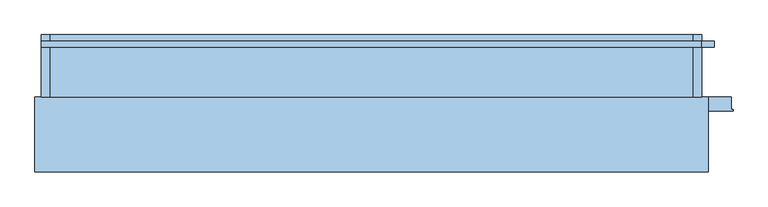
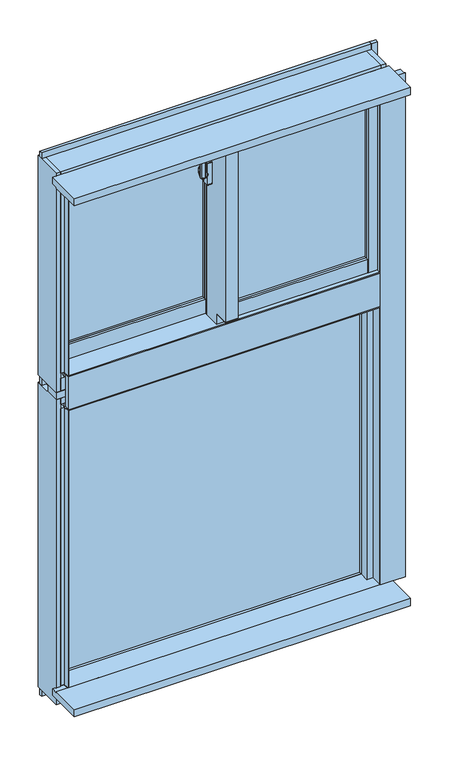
"""IFC4 building model written with IfcOpenShell, lengths in millimetres: window geometry, FNSⅡ100R_非防火_面付枠_段窓_分解無目 : 引違/FIX."""

import ifcopenshell
import ifcopenshell.guid

model = None  # the IFC model being written
_history = None  # IfcOwnerHistory: only IFC2X3 demands one
_inside = {}  # id of a spatial element -> (the spatial element, [elements in it])
_under = {}  # id of a project, library or spatial element -> (it, [spatial elements below it])
_declared = {}  # id of a project -> (the project, [libraries it declares])
_typed = {}  # id of a type object -> (the type object, [elements of that type])
_made_of = {}  # id of a material, layer set ... -> (it, [elements and type objects made of it])


def new_model(schema):
    """Start an empty IFC model of exactly this schema.

    Asked for "IFC4X3", IfcOpenShell would pick the latest addendum, in which some entities
    have other attributes; the version numbers below select the first issue.
    IFC2X3 requires an IfcOwnerHistory on every rooted entity: one is made here for all.
    """
    global model, _history
    if schema == "IFC4X3":
        model = ifcopenshell.file(schema_version=(4, 3, 0, 0))
    else:
        model = ifcopenshell.file(schema=schema)
    _inside.clear()
    _under.clear()
    _declared.clear()
    _typed.clear()
    _made_of.clear()
    _history = None
    if model.schema == "IFC2X3":
        org = make("IfcOrganization", Name="unknown")
        user = make(
            "IfcPersonAndOrganization",
            ThePerson=make("IfcPerson", FamilyName="unknown"),
            TheOrganization=org,
        )
        app = make(
            "IfcApplication",
            ApplicationDeveloper=org,
            Version="unknown",
            ApplicationFullName="unknown",
            ApplicationIdentifier="unknown",
        )
        _history = make(
            "IfcOwnerHistory",
            OwningUser=user,
            OwningApplication=app,
            ChangeAction="ADDED",
            CreationDate=0,
        )
    return model


def make(cls, **values):
    """One entity of the class cls with the attributes given. An attribute that is None is left unset."""
    return model.create_entity(
        cls, **{name: value for name, value in values.items() if value is not None}
    )


def rooted(cls, **values):
    """An entity with a GlobalId (a new one), such as an element, a storey or a relation."""
    return make(cls, GlobalId=ifcopenshell.guid.new(), OwnerHistory=_history, **values)


def si_unit(unit_type, name, prefix=None):
    """IfcSIUnit, for example si_unit("LENGTHUNIT", "METRE", prefix="MILLI")."""
    return make("IfcSIUnit", UnitType=unit_type, Prefix=prefix, Name=name)


def assignment(units):
    """IfcUnitAssignment: the units of a project."""
    return None if units is None else make("IfcUnitAssignment", Units=units)


def point(xyz):
    """IfcCartesianPoint."""
    return None if xyz is None else make("IfcCartesianPoint", Coordinates=xyz)


def direction(xyz):
    """IfcDirection."""
    return None if xyz is None else make("IfcDirection", DirectionRatios=xyz)


def frame(location, z_axis=None, x_axis=None):
    """IfcAxis2Placement3D, a coordinate frame: its origin and axes. An axis left out is left unset."""
    return make(
        "IfcAxis2Placement3D",
        Location=point(location),
        Axis=direction(z_axis),
        RefDirection=direction(x_axis),
    )


def frame_2d(location, x_axis=None):
    """IfcAxis2Placement2D, a coordinate frame in the plane: its origin and x axis."""
    return make(
        "IfcAxis2Placement2D", Location=point(location), RefDirection=direction(x_axis)
    )


def origin():
    """The frame at (0, 0, 0) with its axes left unset."""
    return frame((0.0, 0.0, 0.0))


def place(relative_to, where):
    """IfcLocalPlacement: puts the frame where relative to a parent placement (None: the world)."""
    return make(
        "IfcLocalPlacement", PlacementRelTo=relative_to, RelativePlacement=where
    )


def context(
    kind, dimensions, precision=None, world=None, true_north=None, identifier=None
):
    """IfcGeometricRepresentationContext, for example the 3D "Model" context."""
    return make(
        "IfcGeometricRepresentationContext",
        ContextIdentifier=identifier,
        ContextType=kind,
        CoordinateSpaceDimension=dimensions,
        Precision=precision,
        WorldCoordinateSystem=world,
        TrueNorth=true_north,
    )


def project(units=None, contexts=None):
    """IfcProject with its units and contexts."""
    return rooted(
        "IfcProject",
        Name="project",
        RepresentationContexts=contexts,
        UnitsInContext=assignment(units),
    )


def spatial(cls, under=None, at=None, **own):
    """A site, building, storey or space (cls), placed at a placement, below another one or the project."""
    s = rooted(cls, ObjectPlacement=at, **own)
    if under is not None:
        _under.setdefault(under.id(), (under, []))[1].append(s)
    return s


def polyline(points):
    """IfcPolyline through the points."""
    return make("IfcPolyline", Points=[point(p) for p in points])


def circle_curve(where, radius):
    """IfcCircle in the frame where."""
    return make("IfcCircle", Position=where, Radius=radius)


def trimmed(basis, trim1, trim2, sense, master):
    """IfcTrimmedCurve: the piece of a basis curve between two trims."""
    return make(
        "IfcTrimmedCurve",
        BasisCurve=basis,
        Trim1=trim1,
        Trim2=trim2,
        SenseAgreement=sense,
        MasterRepresentation=master,
    )


def segment(curve, same_sense, transition):
    """IfcCompositeCurveSegment."""
    return make(
        "IfcCompositeCurveSegment",
        Transition=transition,
        SameSense=same_sense,
        ParentCurve=curve,
    )


def composite_curve(segments, self_intersect=None):
    """IfcCompositeCurve: segments joined end to end."""
    return make("IfcCompositeCurve", Segments=segments, SelfIntersect=self_intersect)


def outline(outer, holes=None, kind="AREA"):
    """IfcArbitraryClosedProfileDef: a profile drawn as a closed curve; with holes, ...WithVoids."""
    if holes is None:
        return make("IfcArbitraryClosedProfileDef", ProfileType=kind, OuterCurve=outer)
    return make(
        "IfcArbitraryProfileDefWithVoids",
        ProfileType=kind,
        OuterCurve=outer,
        InnerCurves=holes,
    )


def extrude(swept, where, along, depth):
    """IfcExtrudedAreaSolid: the profile swept, set in the frame where, extruded along a direction by depth."""
    return make(
        "IfcExtrudedAreaSolid",
        SweptArea=swept,
        Position=where,
        ExtrudedDirection=direction(along),
        Depth=depth,
    )


def faces_of(points, faces, orient=None, outer=None):
    """IfcFace entities. A face is a list of loops; a loop is a list of indices into points, from 0.

    orient and outer hold one flag for each loop. By default every Orientation is true, the
    first loop of a face is its IfcFaceOuterBound and the others are IfcFaceBound.
    """
    made = []
    for i, loops in enumerate(faces):
        bounds = []
        for j, loop in enumerate(loops):
            is_outer = j == 0 if outer is None else outer[i][j]
            bounds.append(
                make(
                    "IfcFaceOuterBound" if is_outer else "IfcFaceBound",
                    Bound=make("IfcPolyLoop", Polygon=[points[k] for k in loop]),
                    Orientation=True if orient is None else orient[i][j],
                )
            )
        made.append(make("IfcFace", Bounds=bounds))
    return made


def faceted_brep(points, faces, orient=None, outer=None, voids=None):
    """IfcFacetedBrep: a solid bounded by flat faces; with voids (closed shells), ...WithVoids."""
    shared = [point(p) for p in points]
    hull = make("IfcClosedShell", CfsFaces=faces_of(shared, faces, orient, outer))
    if voids is None:
        return make("IfcFacetedBrep", Outer=hull)
    return make(
        "IfcFacetedBrepWithVoids",
        Outer=hull,
        Voids=[
            make(cls, CfsFaces=faces_of(shared, fs, o, b)) for cls, fs, o, b in voids
        ],
    )


def shape(context_of_items, identifier, shape_type, items):
    """IfcShapeRepresentation: the items that make up one representation, for example the "Body"."""
    return make(
        "IfcShapeRepresentation",
        ContextOfItems=context_of_items,
        RepresentationIdentifier=identifier,
        RepresentationType=shape_type,
        Items=items,
    )


def source(mapping_origin, context_of_items, identifier, shape_type, items):
    """IfcRepresentationMap: a shape defined once, which mapped items show again and again."""
    return make(
        "IfcRepresentationMap",
        MappingOrigin=mapping_origin,
        MappedRepresentation=shape(context_of_items, identifier, shape_type, items),
    )


def transform(
    local_origin,
    x_axis=None,
    y_axis=None,
    z_axis=None,
    scale=None,
    scale2=None,
    scale3=None,
    uniform=True,
):
    """IfcCartesianTransformationOperator3D, or its non-uniform kind. x_axis, y_axis, z_axis: its Axis1, 2, 3."""
    if uniform:
        return make(
            "IfcCartesianTransformationOperator3D",
            Axis1=direction(x_axis),
            Axis2=direction(y_axis),
            LocalOrigin=point(local_origin),
            Scale=scale,
            Axis3=direction(z_axis),
        )
    return make(
        "IfcCartesianTransformationOperator3DnonUniform",
        Axis1=direction(x_axis),
        Axis2=direction(y_axis),
        LocalOrigin=point(local_origin),
        Scale=scale,
        Axis3=direction(z_axis),
        Scale2=scale2,
        Scale3=scale3,
    )


def mapped(mapping_source, mapping_target):
    """IfcMappedItem: shows the shape of a source again, moved by a transform."""
    return make(
        "IfcMappedItem", MappingSource=mapping_source, MappingTarget=mapping_target
    )


def made_of(thing, what):
    """Note that an element or type object is made of a material, layer set ...; save() writes the relation."""
    if what is not None:
        _made_of.setdefault(what.id(), (what, []))[1].append(thing)
    return thing


def element(
    cls,
    number,
    at=None,
    inside=None,
    cuts=None,
    type_object=None,
    material=None,
    context=None,
    identifier="Body",
    shape_type=None,
    held_by="IfcProductDefinitionShape",
    body=None,
    shapes=None,
    **own,
):
    """One element of the class cls, such as IfcWall. Its Tag is "e" and its number.

    at: its placement. inside: the storey or other place that contains it. cuts: it is an
    opening in that element (IfcRelVoidsElement). A single representation is given by context,
    identifier, shape_type and body (its items); several are given by shapes. held_by: the class
    of the entity that holds the representations. save() writes the other relations.
    """
    e = rooted(cls, Tag="e%d" % number, ObjectPlacement=at, **own)
    if body is not None:
        shapes = [shape(context, identifier, shape_type, body)]
    if shapes is not None:
        e.Representation = make(held_by, Representations=shapes)
    if inside is not None:
        _inside.setdefault(inside.id(), (inside, []))[1].append(e)
    if cuts is not None:
        rooted(
            "IfcRelVoidsElement", RelatingBuildingElement=cuts, RelatedOpeningElement=e
        )
    if type_object is not None:
        _typed.setdefault(type_object.id(), (type_object, []))[1].append(e)
    return made_of(e, material)


def aggregate(whole, parts):
    """IfcRelAggregates: a whole, such as a stair, and the parts it consists of."""
    return rooted("IfcRelAggregates", RelatingObject=whole, RelatedObjects=parts)


def save(model, path):
    """Write the relations noted so far, then the file.

    IfcRelAggregates (storeys below a building ...), IfcRelContainedInSpatialStructure (elements
    in a storey), IfcRelDefinesByType, IfcRelAssociatesMaterial and IfcRelDeclares: one each for
    every whole, place, type object, material and project.
    """
    for whole, parts in _under.values():
        aggregate(whole, parts)
    for where, things in _inside.values():
        rooted(
            "IfcRelContainedInSpatialStructure",
            RelatedElements=things,
            RelatingStructure=where,
        )
    for kind, things in _typed.values():
        rooted("IfcRelDefinesByType", RelatedObjects=things, RelatingType=kind)
    for what, things in _made_of.values():
        rooted("IfcRelAssociatesMaterial", RelatedObjects=things, RelatingMaterial=what)
    for by, libraries in _declared.values():
        rooted("IfcRelDeclares", RelatingContext=by, RelatedDefinitions=libraries)
    model.write(path)


def plane_surface(at):
    """IfcPlane: the flat surface through the origin of the frame at, square to its z axis."""
    return make("IfcPlane", Position=at)


def cylinder_surface(at, radius):
    """IfcCylindricalSurface: all points at the distance radius from the z axis of the frame at."""
    return make("IfcCylindricalSurface", Position=at, Radius=radius)


def revolved_surface(curve, axis_point, axis_direction):
    """IfcSurfaceOfRevolution: the curve turned about the line through axis_point along axis_direction."""
    return make(
        "IfcSurfaceOfRevolution",
        SweptCurve=make("IfcArbitraryOpenProfileDef", ProfileType="CURVE", Curve=curve),
        AxisPosition=make("IfcAxis1Placement", Location=point(axis_point), Axis=direction(axis_direction)),
    )


def advanced_brep(points, edges, surfaces, faces):
    """IfcAdvancedBrep: a solid bounded by faces that lie on surfaces and meet in shared edges.

    An edge is (start, end): straight between two places in points (the first is 0);
    or (start, end, curve); or (start, end, curve, False) where it runs against its curve.
    A face is (place in surfaces, loops), or (place, loops, False) where it looks against
    its surface's normal. A loop lists edges by number (the first is 1), with a minus sign
    where the edge is run from its end to its start. The first loop is the outer one.
    """
    corners = [point(p) for p in points]
    vertices = [make("IfcVertexPoint", VertexGeometry=c) for c in corners]
    made = []
    for start, end, *more in edges:
        made.append(
            make(
                "IfcEdgeCurve",
                EdgeStart=vertices[start],
                EdgeEnd=vertices[end],
                EdgeGeometry=more[0] if more else make("IfcPolyline", Points=[corners[start], corners[end]]),
                SameSense=more[1] if len(more) > 1 else True,
            )
        )
    hull = []
    for where, loops, *sense in faces:
        bounds = []
        for j, loop in enumerate(loops):
            ring = [make("IfcOrientedEdge", EdgeElement=made[abs(k) - 1], Orientation=k > 0) for k in loop]
            bounds.append(
                make(
                    "IfcFaceOuterBound" if j == 0 else "IfcFaceBound",
                    Bound=make("IfcEdgeLoop", EdgeList=ring),
                    Orientation=True,
                )
            )
        hull.append(make("IfcAdvancedFace", Bounds=bounds, FaceSurface=surfaces[where], SameSense=sense[0] if sense else True))
    return make("IfcAdvancedBrep", Outer=make("IfcClosedShell", CfsFaces=hull))


def window_9f8f197e(model_context):
    return source(origin(), model_context, "Body", "SolidModel", [
        extrude(outline(composite_curve([segment(polyline([(-39.0, 34.6), (-39.0, 26.4)]), True, "CONTINUOUS"), segment(trimmed(circle_curve(frame_2d((-41.0, 26.4)), 2.0), [point((-39.0, 26.4))], [point((-41.3606557, 24.4327869))], False, "CARTESIAN"), True, "CONTINUOUS"), segment(polyline([(-41.3606557, 24.4327869), (-52.3606557, 26.4494536)]), True, "CONTINUOUS"), segment(trimmed(circle_curve(frame_2d((-52.0, 28.4166667)), 2.0), [point((-52.3606557, 26.4494536))], [point((-54.0, 28.4166667))], False, "CARTESIAN"), True, "CONTINUOUS"), segment(polyline([(-54.0, 28.4166667), (-54.0, 32.5833333)]), True, "CONTINUOUS"), segment(trimmed(circle_curve(frame_2d((-52.0, 32.5833333)), 2.0), [point((-54.0, 32.5833333))], [point((-52.3606557, 34.5505464))], False, "CARTESIAN"), True, "CONTINUOUS"), segment(polyline([(-52.3606557, 34.5505464), (-41.3606557, 36.5672131)]), True, "CONTINUOUS"), segment(trimmed(circle_curve(frame_2d((-41.0, 34.6)), 2.0), [point((-41.3606557, 36.5672131))], [point((-39.0, 34.6))], False, "CARTESIAN"), True, "CONTINUOUS")], self_intersect=False)), frame((0.0, 0.0, 2450.0), z_axis=(0.0, 0.0, 1.0), x_axis=(1.0, 0.0, 0.0)), (0.0, 0.0, 1.0), 100.0),
        advanced_brep(
        [(-37.5, 38.8234285, 2481.7333311), (-45.5, 38.8234285, 2481.7333311), (-45.5, 38.4351999, 2480.2844424), (-39.0, 38.4351999, 2480.2844424), (-39.0, 36.6234666, 2473.5229616), (-37.5, 36.6234666, 2473.5229616), (-39.0, 36.6466117, 2439.3190372), (-45.5, 36.6466117, 2439.3190372), (-45.5, 36.907084, 2437.8418256), (-37.5, 36.907084, 2437.8418256), (-37.5, 35.4310745, 2446.2126915), (-39.0, 35.4310745, 2446.2126915)],
        [
            (0, 1),
            (1, 2),
            (2, 3),
            (3, 4),
            (4, 5),
            (5, 0),
            (6, 7),
            (7, 8),
            (8, 9),
            (9, 10),
            (10, 11),
            (11, 6),
            (0, 9, circle_curve(frame((-37.5, 33.0, 2460.0), z_axis=(-1.0, 0.0, 0.0), x_axis=(0.0, 0.25881904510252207, 0.965925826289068)), 22.5)),
            (8, 1, circle_curve(frame((-45.5, 33.0, 2460.0), z_axis=(1.0, 0.0, 0.0), x_axis=(0.0, 0.25881904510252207, 0.965925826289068)), 22.5)),
            (7, 2, circle_curve(frame((-45.5, 33.0, 2460.0), z_axis=(1.0, 0.0, 0.0), x_axis=(0.0, 0.25881904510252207, 0.965925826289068)), 21.0)),
            (6, 3, circle_curve(frame((-39.0, 33.0, 2460.0), z_axis=(1.0, 0.0, 0.0), x_axis=(0.0, 0.25881904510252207, 0.965925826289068)), 21.0)),
            (11, 4, circle_curve(frame((-39.0, 33.0, 2460.0), z_axis=(-1.0, 0.0, 0.0), x_axis=(0.0, -1.0, 0.0)), 14.0)),
            (5, 10, circle_curve(frame((-37.5, 33.0, 2460.0), z_axis=(1.0, 0.0, 0.0), x_axis=(0.0, -1.0, 0.0)), 14.0)),
        ],
        [
            plane_surface(frame((-43.5470497, 33.0, 2460.0), z_axis=(0.0, -0.965925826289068, 0.25881904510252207), x_axis=(0.0, 0.25881904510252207, 0.965925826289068))),
            plane_surface(frame((-43.5470497, 33.0, 2460.0), z_axis=(0.0, -0.9848077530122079, -0.17364817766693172), x_axis=(0.0, 0.17364817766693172, -0.9848077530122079))),
            cylinder_surface(frame((-43.5470497, 33.0, 2460.0), z_axis=(-1.0, 0.0, 0.0), x_axis=(0.0, 0.25881904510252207, 0.965925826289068)), 22.5),
            plane_surface(frame((-45.5, 33.0, 2460.0), z_axis=(-1.0, 0.0, 0.0), x_axis=(0.0, 0.25881904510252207, 0.965925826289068))),
            revolved_surface(polyline([(-45.5, 38.43519994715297, 2480.2844423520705), (-39.0, 38.43519994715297, 2480.2844423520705)]), (-43.5470497, 33.0, 2460.0), (-1.0, 0.0, 0.0)),
            plane_surface(frame((-39.0, 33.0, 2460.0), z_axis=(-1.0, 0.0, 0.0), x_axis=(0.0, 0.25881904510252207, 0.965925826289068))),
            plane_surface(frame((-37.5, 33.0, 2460.0), z_axis=(1.0, 0.0, 0.0), x_axis=(0.0, 0.25881904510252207, 0.965925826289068))),
            cylinder_surface(frame((-37.5, 33.0, 2460.0), z_axis=(-1.0, 0.0, 0.0), x_axis=(0.0, -1.0, 0.0)), 14.0),
        ],
        [
            (0, [[1, 2, 3, 4, 5, 6]]),
            (1, [[7, 8, 9, 10, 11, 12]]),
            (2, [[-1, 13, -9, 14]]),
            (3, [[-2, -14, -8, 15]]),
            (4, [[-3, -15, -7, 16]]),
            (5, [[-16, -12, 17, -4]]),
            (6, [[-13, -6, 18, -10]]),
            (7, [[-17, -11, -18, -5]]),
        ],
    ),
        extrude(outline(composite_curve([segment(trimmed(circle_curve(frame_2d((33.0, 2460.0)), 11.5), [point((44.5, 2460.0))], [point((21.5, 2460.0))], False, "CARTESIAN"), True, "CONTINUOUS"), segment(trimmed(circle_curve(frame_2d((33.0, 2460.0)), 11.5), [point((21.5, 2460.0))], [point((44.5, 2460.0))], False, "CARTESIAN"), True, "CONTINUOUS")], self_intersect=False)), frame((-37.5, 0.0, 0.0), z_axis=(1.0, 0.0, 0.0), x_axis=(0.0, 1.0, 0.0)), (0.0, 0.0, 1.0), 2.5),
        extrude(outline(composite_curve([segment(polyline([(24.0, 2497.5), (42.0, 2497.5)]), True, "CONTINUOUS"), segment(trimmed(circle_curve(frame_2d((42.0, 2495.5)), 2.0), [point((42.0, 2497.5))], [point((44.0, 2495.5))], False, "CARTESIAN"), True, "CONTINUOUS"), segment(polyline([(44.0, 2495.5), (44.0, 2424.5)]), True, "CONTINUOUS"), segment(trimmed(circle_curve(frame_2d((42.0, 2424.5)), 2.0), [point((44.0, 2424.5))], [point((42.0, 2422.5))], False, "CARTESIAN"), True, "CONTINUOUS"), segment(polyline([(42.0, 2422.5), (24.0, 2422.5)]), True, "CONTINUOUS"), segment(trimmed(circle_curve(frame_2d((24.0, 2424.5)), 2.0), [point((24.0, 2422.5))], [point((22.0, 2424.5))], False, "CARTESIAN"), True, "CONTINUOUS"), segment(polyline([(22.0, 2424.5), (22.0, 2495.5)]), True, "CONTINUOUS"), segment(trimmed(circle_curve(frame_2d((24.0, 2495.5)), 2.0), [point((22.0, 2495.5))], [point((24.0, 2497.5))], False, "CARTESIAN"), True, "CONTINUOUS")], self_intersect=False)), frame((-35.0, 0.0, 0.0), z_axis=(1.0, 0.0, 0.0), x_axis=(0.0, 1.0, 0.0)), (0.0, 0.0, 1.0), 15.0),
        extrude(outline(polyline([(20.0, 24.0), (468.0, 24.0), (468.0, 18.0), (20.0, 18.0), (20.0, 24.0)])), frame((0.0, 0.0, 2008.0), z_axis=(0.0, 0.0, 1.0), x_axis=(1.0, 0.0, 0.0)), (0.0, 0.0, 1.0), 562.0),
        extrude(outline(polyline([(20.0, 42.0), (468.0, 42.0), (468.0, 36.0), (20.0, 36.0), (20.0, 42.0)])), frame((0.0, 0.0, 2008.0), z_axis=(0.0, 0.0, 1.0), x_axis=(1.0, 0.0, 0.0)), (0.0, 0.0, 1.0), 562.0),
        extrude(outline(polyline([(-468.0, 82.0), (-20.0, 82.0), (-20.0, 76.0), (-468.0, 76.0), (-468.0, 82.0)])), frame((0.0, 0.0, 2008.0), z_axis=(0.0, 0.0, 1.0), x_axis=(1.0, 0.0, 0.0)), (0.0, 0.0, 1.0), 562.0),
        extrude(outline(polyline([(-468.0, 100.0), (-20.0, 100.0), (-20.0, 94.0), (-468.0, 94.0), (-468.0, 100.0)])), frame((0.0, 0.0, 2008.0), z_axis=(0.0, 0.0, 1.0), x_axis=(1.0, 0.0, 0.0)), (0.0, 0.0, 1.0), 562.0),
        faceted_brep([(-500.0, 108.0, 2610.0), (-468.0, 108.0, 2610.0), (-468.0, 108.0, 1920.0), (-500.0, 108.0, 1920.0), (-500.0, 79.0, 1920.0), (-500.0, 79.0, 2610.0), (-489.5, 79.0, 1960.0), (-468.0, 79.0, 1960.0), (-468.0, 66.0, 1960.0), (-489.5, 66.0, 1960.0), (-489.5, 79.0, 2610.0), (-489.5, 66.0, 2610.0), (-468.0, 66.0, 2610.0), (-468.0, 79.0, 1920.0)], [[[0, 1, 2, 3]], [[4, 5, 0, 3]], [[6, 7, 8, 9]], [[5, 10, 11, 12, 1, 0]], [[13, 4, 3, 2]], [[10, 5, 4, 13, 7, 6]], [[11, 10, 6, 9]], [[12, 11, 9, 8]], [[1, 12, 8, 7, 13, 2]]]),
        faceted_brep([(-20.0, 108.0, 1920.0), (20.0, 108.0, 1920.0), (20.0, 79.0, 1920.0), (-20.0, 79.0, 1920.0), (-1.8, 65.5, 2610.0), (-20.0, 65.5, 2610.0), (-20.0, 65.5, 1960.0), (-1.8, 65.5, 1960.0), (-1.8, 53.1, 2610.0), (-1.8, 53.1, 1960.0), (20.0, 53.1, 2610.0), (20.0, 53.1, 1960.0), (-20.0, 108.0, 2610.0), (20.0, 108.0, 2610.0), (-20.0, 79.0, 1960.0), (20.0, 79.0, 1960.0)], [[[0, 1, 2, 3]], [[4, 5, 6, 7]], [[8, 4, 7, 9]], [[10, 8, 9, 11]], [[12, 13, 1, 0]], [[14, 15, 11, 9, 7, 6]], [[5, 4, 8, 10, 13, 12]], [[13, 10, 11, 15, 2, 1]], [[5, 12, 0, 3, 14, 6]], [[15, 14, 3, 2]]]),
        faceted_brep([(-20.0, 53.1, 1960.0), (-15.0, 53.1, 1960.0), (-15.0, 0.0, 1960.0), (-20.0, 0.0, 1960.0), (15.0, 12.0, 1960.0), (20.0, 12.0, 1960.0), (20.0, 0.0, 1960.0), (15.0, 0.0, 1960.0), (-15.0, 53.1, 2610.0), (-15.0, 0.0, 2610.0), (-15.0, 0.0, 2581.0), (-15.0, -42.0, 2581.0), (-15.0, -42.0, 1996.5), (-15.0, 0.0, 1996.5), (-20.0, 53.1, 2610.0), (-20.0, 0.0, 2610.0), (20.0, 12.0, 2610.0), (15.0, 12.0, 2610.0), (15.0, 0.0, 2610.0), (20.0, 0.0, 2610.0), (-20.0, 0.0, 1996.5), (-20.0, -50.0, 1996.5), (-20.0, -50.0, 2581.0), (-20.0, 0.0, 2581.0), (20.0, -50.0, 1996.5), (20.0, -50.0, 2581.0), (20.0, 0.0, 2581.0), (20.0, 0.0, 1996.5), (15.0, -42.0, 2581.0), (15.0, -42.0, 1996.5), (15.0, 0.0, 1996.5), (15.0, 0.0, 2581.0)], [[[0, 1, 2, 3]], [[4, 5, 6, 7]], [[1, 8, 9, 10, 11, 12, 13, 2]], [[14, 8, 1, 0]], [[8, 14, 15, 9]], [[16, 17, 18, 19]], [[14, 0, 3, 20, 21, 22, 23, 15]], [[22, 21, 24, 25]], [[5, 16, 19, 26, 25, 24, 27, 6]], [[28, 29, 12, 11]], [[17, 16, 5, 4]], [[17, 4, 7, 30, 29, 28, 31, 18]], [[13, 20, 3, 2]], [[27, 30, 7, 6]], [[20, 13, 12, 29, 30, 27, 24, 21]], [[10, 23, 22, 25, 26, 31, 28, 11]], [[23, 10, 9, 15]], [[31, 26, 19, 18]]]),
        faceted_brep([(-15.0, 53.1, 1960.0), (20.0, 53.1, 1960.0), (20.0, 12.0, 1960.0), (15.0, 12.0, 1960.0), (15.0, 0.0, 1960.0), (-15.0, 0.0, 1960.0), (-15.0, 53.1, 2610.0), (-15.0, 0.0, 1996.5), (-15.0, -42.0, 1996.5), (-15.0, -42.0, 2581.0), (-15.0, 0.0, 2581.0), (-15.0, 0.0, 2610.0), (20.0, 53.1, 2610.0), (15.0, 0.0, 2581.0), (15.0, -42.0, 2581.0), (20.0, 12.0, 2610.0), (15.0, 12.0, 2610.0), (15.0, 0.0, 2610.0), (15.0, -42.0, 1996.5), (15.0, 0.0, 1996.5)], [[[0, 1, 2, 3, 4, 5]], [[6, 0, 5, 7, 8, 9, 10, 11]], [[6, 12, 1, 0]], [[13, 10, 9, 14]], [[15, 16, 3, 2]], [[16, 15, 12, 6, 11, 17]], [[9, 8, 18, 14]], [[12, 15, 2, 1]], [[19, 7, 5, 4]], [[7, 19, 18, 8]], [[10, 13, 17, 11]], [[3, 16, 17, 13, 14, 18, 19, 4]]]),
        extrude(outline(polyline([(468.0, 0.0), (468.0, 8.0), (489.5, 8.0), (489.5, 21.0), (497.0, 21.0), (497.0, 0.0), (468.0, 0.0)])), frame((0.0, 0.0, 1963.0), z_axis=(0.0, 0.0, 1.0), x_axis=(1.0, 0.0, 0.0)), (0.0, 0.0, 1.0), 647.0),
        extrude(outline(polyline([(468.0, 50.0), (500.0, 50.0), (500.0, 21.0), (489.5, 21.0), (489.5, 8.0), (468.0, 8.0), (468.0, 50.0)])), frame((0.0, 0.0, 1960.0), z_axis=(0.0, 0.0, 1.0), x_axis=(1.0, 0.0, 0.0)), (0.0, 0.0, 1.0), 650.0),
        extrude(outline(polyline([(-1.85, 65.5), (-1.85, 58.0), (-20.0, 58.0), (-20.0, 65.5), (-1.85, 65.5)])), frame((0.0, 0.0, 1960.0), z_axis=(0.0, 0.0, 1.0), x_axis=(1.0, 0.0, 0.0)), (0.0, 0.0, 1.0), 650.0),
        extrude(outline(polyline([(-497.0, 79.0), (-489.5, 79.0), (-489.5, 66.0), (-468.0, 66.0), (-468.0, 58.0), (-497.0, 58.0), (-497.0, 79.0)])), frame((0.0, 0.0, 1960.0), z_axis=(0.0, 0.0, 1.0), x_axis=(1.0, 0.0, 0.0)), (0.0, 0.0, 1.0), 650.0),
        extrude(outline(polyline([(2.0, 1963.0), (2.0, 2008.0), (10.0, 2008.0), (10.0, 1985.5), (21.0, 1985.5), (21.0, 1963.0), (2.0, 1963.0)])), frame((20.0, 0.0, 0.0), z_axis=(1.0, 0.0, 0.0), x_axis=(0.0, 1.0, 0.0)), (0.0, 0.0, 1.0), 448.0),
        extrude(outline(polyline([(50.0, 1960.0), (21.0, 1960.0), (21.0, 1985.5), (10.0, 1985.5), (10.0, 2008.0), (50.0, 2008.0), (50.0, 1960.0)])), frame((20.0, 0.0, 0.0), z_axis=(1.0, 0.0, 0.0), x_axis=(0.0, 1.0, 0.0)), (0.0, 0.0, 1.0), 448.0),
        extrude(outline(polyline([(60.0, 2008.0), (68.0, 2008.0), (68.0, 1985.5), (79.0, 1985.5), (79.0, 1960.0), (60.0, 1960.0), (60.0, 2008.0)])), frame((-468.0, 0.0, 0.0), z_axis=(1.0, 0.0, 0.0), x_axis=(0.0, 1.0, 0.0)), (0.0, 0.0, 1.0), 448.0),
        extrude(outline(polyline([(108.0, 1920.0), (79.0, 1920.0), (79.0, 1985.5), (68.0, 1985.5), (68.0, 2008.0), (108.0, 2008.0), (108.0, 1920.0)])), frame((-468.0, 0.0, 0.0), z_axis=(1.0, 0.0, 0.0), x_axis=(0.0, 1.0, 0.0)), (0.0, 0.0, 1.0), 448.0),
        extrude(outline(polyline([(23.0, 2590.5), (10.0, 2590.5), (10.0, 2570.0), (2.0, 2570.0), (2.0, 2610.0), (23.0, 2610.0), (23.0, 2590.5)])), frame((20.0, 0.0, 0.0), z_axis=(1.0, 0.0, 0.0), x_axis=(0.0, 1.0, 0.0)), (0.0, 0.0, 1.0), 448.0),
        extrude(outline(polyline([(50.0, 2610.0), (50.0, 2570.0), (10.0, 2570.0), (10.0, 2590.5), (23.0, 2590.5), (23.0, 2610.0), (50.0, 2610.0)])), frame((20.0, 0.0, 0.0), z_axis=(1.0, 0.0, 0.0), x_axis=(0.0, 1.0, 0.0)), (0.0, 0.0, 1.0), 448.0),
        extrude(outline(polyline([(81.0, 2590.5), (68.0, 2590.5), (68.0, 2570.0), (60.0, 2570.0), (60.0, 2610.0), (81.0, 2610.0), (81.0, 2590.5)])), frame((-468.0, 0.0, 0.0), z_axis=(1.0, 0.0, 0.0), x_axis=(0.0, 1.0, 0.0)), (0.0, 0.0, 1.0), 448.0),
        extrude(outline(polyline([(108.0, 2610.0), (108.0, 2570.0), (68.0, 2570.0), (68.0, 2590.5), (81.0, 2590.5), (81.0, 2610.0), (108.0, 2610.0)])), frame((-468.0, 0.0, 0.0), z_axis=(1.0, 0.0, 0.0), x_axis=(0.0, 1.0, 0.0)), (0.0, 0.0, 1.0), 448.0),
        extrude(outline(polyline([(0.0, 2581.0), (-50.0, 2581.0), (-50.0, 2582.0), (-1.0, 2582.0), (-1.0, 2610.0), (0.0, 2610.0), (0.0, 2581.0)])), frame((-20.0, 0.0, 0.0), z_axis=(1.0, 0.0, 0.0), x_axis=(0.0, 1.0, 0.0)), (0.0, 0.0, 1.0), 40.0),
        extrude(outline(polyline([(0.0, 1996.5), (0.0, 1960.0), (-1.0, 1960.0), (-1.0, 1995.5), (-50.0, 1995.5), (-50.0, 1996.5), (0.0, 1996.5)])), frame((-20.0, 0.0, 0.0), z_axis=(1.0, 0.0, 0.0), x_axis=(0.0, 1.0, 0.0)), (0.0, 0.0, 1.0), 40.0),
        extrude(outline(polyline([(-15.0, 80.3), (-15.0, 31.9), (-500.0, 31.9), (-500.0, 80.3), (-15.0, 80.3)])), frame((0.0, 0.0, 2610.0), z_axis=(0.0, 0.0, 1.0), x_axis=(1.0, 0.0, 0.0)), (0.0, 0.0, 1.0), 25.0),
        faceted_brep([(-515.0, 80.3, 2635.0), (-515.0, 80.3, 2610.0), (-15.0, 80.3, 2610.0), (-15.0, 80.3, 2635.0), (515.0, 80.3, 2610.0), (515.0, 80.3, 2635.0), (500.0, 80.3, 2635.0), (500.0, 80.3, 2610.0), (515.0, 10.0, 2635.0), (-515.0, 10.0, 2635.0), (-15.0, 31.9, 2635.0), (500.0, 31.9, 2635.0), (515.0, 110.0, 2645.0), (515.0, 110.0, 2610.0), (-515.0, 110.0, 2610.0), (-515.0, 110.0, 2645.0), (500.0, 31.9, 2610.0), (-15.0, 31.9, 2610.0), (515.0, 10.0, 2645.0), (-515.0, 10.0, 2645.0)], [[[0, 1, 2, 3]], [[4, 5, 6, 7]], [[5, 8, 9, 0, 3, 10, 11, 6]], [[12, 13, 14, 15]], [[16, 11, 10, 17]], [[13, 4, 7, 16, 17, 2, 1, 14]], [[18, 12, 15, 19]], [[8, 18, 19, 9]], [[13, 12, 18, 8, 5, 4]], [[14, 1, 0, 9, 19, 15]], [[11, 16, 7, 6]], [[2, 17, 10, 3]]]),
        extrude(outline(polyline([(31.9, 2610.0), (-10.0, 2610.0), (-10.0, 2613.0), (10.0, 2613.0), (10.0, 2635.0), (31.9, 2635.0), (31.9, 2610.0)])), frame((-500.0, 0.0, 0.0), z_axis=(1.0, 0.0, 0.0), x_axis=(0.0, 1.0, 0.0)), (0.0, 0.0, 1.0), 1000.0),
        faceted_brep([(500.0, 10.0, 2630.0), (500.0, 10.0, 2613.0), (503.0, 10.0, 2613.0), (503.0, 10.0, 1960.0), (515.0, 10.0, 1960.0), (515.0, 10.0, 2630.0), (500.0, 14.5, 1960.0), (500.0, -10.0, 1960.0), (500.0, -10.0, 2613.0), (500.0, 14.5, 2630.0), (515.0, 14.5, 1960.0), (503.0, -10.0, 1960.0), (515.0, 14.5, 2630.0), (503.0, -10.0, 2613.0)], [[[0, 1, 2, 3, 4, 5]], [[6, 7, 8, 1, 0, 9]], [[7, 6, 10, 4, 3, 11]], [[0, 5, 12, 9]], [[7, 11, 13, 8]], [[11, 3, 2, 13]], [[12, 5, 4, 10]], [[9, 12, 10, 6]], [[2, 1, 8, 13]]]),
        faceted_brep([(-515.0, 76.0, 2630.0), (-500.0, 76.0, 2630.0), (-500.0, 76.0, 1960.0), (-515.0, 76.0, 1960.0), (-515.0, 10.0, 1960.0), (-500.0, -10.0, 1960.0), (-503.0, -10.0, 1960.0), (-503.0, 10.0, 1960.0), (-500.0, 10.0, 2630.0), (-500.0, 10.0, 2613.0), (-500.0, -10.0, 2613.0), (-515.0, 10.0, 2630.0), (-503.0, 10.0, 2613.0), (-503.0, -10.0, 2613.0)], [[[0, 1, 2, 3]], [[4, 3, 2, 5, 6, 7]], [[5, 2, 1, 8, 9, 10]], [[11, 8, 1, 0]], [[4, 7, 12, 9, 8, 11]], [[7, 6, 13, 12]], [[6, 5, 10, 13]], [[4, 11, 0, 3]], [[9, 12, 13, 10]]]),
        faceted_brep([(500.0, 14.5, 2610.0), (500.0, 110.0, 2610.0), (500.0, 110.0, 1909.0), (500.0, 14.5, 1909.0), (515.0, 10.0, 1900.0), (515.0, 110.0, 1900.0), (530.0, 110.0, 1900.0), (530.0, 10.0, 1900.0), (530.0, 10.0, 2645.0), (515.0, 10.0, 2645.0), (515.0, 14.5, 2610.0), (515.0, 14.5, 1909.0), (530.0, 110.0, 2645.0), (515.0, 110.0, 2645.0), (515.0, 110.0, 2610.0), (515.0, 110.0, 1909.0)], [[[0, 1, 2, 3]], [[4, 5, 6, 7]], [[8, 9, 4, 7]], [[10, 0, 3, 11]], [[9, 8, 12, 13]], [[0, 10, 14, 1]], [[3, 2, 15, 11]], [[12, 8, 7, 6]], [[13, 12, 6, 5, 15, 2, 1, 14]], [[9, 13, 14, 10, 11, 15, 5, 4]]]),
        faceted_brep([(-530.0, 110.0, 1900.0), (-515.0, 110.0, 1900.0), (-515.0, 10.0, 1900.0), (-530.0, 10.0, 1900.0), (-530.0, 10.0, 2645.0), (-530.0, 110.0, 2645.0), (-515.0, 110.0, 2645.0), (-515.0, 10.0, 2645.0), (-515.0, 110.0, 1909.0), (-515.0, 76.0, 1909.0), (-515.0, 76.0, 2610.0), (-515.0, 110.0, 2610.0), (-500.0, 110.0, 2610.0), (-500.0, 110.0, 1909.0), (-500.0, 76.0, 2610.0), (-500.0, 76.0, 1909.0)], [[[0, 1, 2, 3]], [[4, 5, 0, 3]], [[6, 7, 2, 1, 8, 9, 10, 11]], [[5, 4, 7, 6]], [[7, 4, 3, 2]], [[5, 6, 11, 12, 13, 8, 1, 0]], [[12, 11, 10, 14]], [[13, 15, 9, 8]], [[14, 10, 9, 15]], [[12, 14, 15, 13]]]),
        faceted_brep([(515.0, 110.0, 1900.0), (515.0, 110.0, 1909.0), (515.0, 76.0, 1909.0), (515.0, 76.0, 1944.0), (515.0, 10.0, 1944.0), (515.0, 10.0, 1900.0), (-515.0, 110.0, 1900.0), (-515.0, 10.0, 1900.0), (-515.0, 10.0, 1944.0), (-515.0, 76.0, 1944.0), (-515.0, 76.0, 1909.0), (-515.0, 110.0, 1909.0), (500.0, 37.25, 1960.0), (500.0, 37.25, 1944.0), (-15.0, 37.25, 1944.0), (-15.0, 37.25, 1960.0), (500.0, 18.8, 1944.0), (-15.0, 18.8, 1944.0), (500.0, 18.8, 1960.0), (-15.0, 18.8, 1960.0)], [[[0, 1, 2, 3, 4, 5]], [[6, 7, 8, 9, 10, 11]], [[3, 2, 10, 9]], [[0, 5, 7, 6]], [[12, 13, 14, 15]], [[4, 3, 9, 8], [13, 16, 17, 14]], [[2, 1, 11, 10]], [[5, 4, 8, 7]], [[1, 0, 6, 11]], [[18, 16, 13, 12]], [[19, 15, 14, 17]], [[16, 18, 19, 17]], [[18, 12, 15, 19]]]),
        faceted_brep([(503.0, -10.0, 1960.0), (503.0, -10.0, 1957.0), (503.0, 10.0, 1957.0), (503.0, 10.0, 1944.0), (503.0, 14.5, 1944.0), (503.0, 14.5, 1960.0), (-503.0, 10.0, 1944.0), (-503.0, 10.0, 1957.0), (-503.0, -10.0, 1957.0), (-503.0, -10.0, 1960.0), (-503.0, 18.8, 1960.0), (-503.0, 18.8, 1944.0), (500.0, 14.5, 1960.0), (500.0, 14.5, 1944.0), (500.0, 18.8, 1944.0), (500.0, 18.8, 1960.0), (-15.0, 76.0, 1960.0), (-15.0, 18.8, 1960.0), (-15.0, 18.8, 1944.0), (-15.0, 76.0, 1944.0), (-500.0, 76.0, 1960.0), (-500.0, 18.8, 1960.0), (-500.0, 18.8, 1944.0), (-500.0, 76.0, 1944.0)], [[[0, 1, 2, 3, 4, 5]], [[6, 7, 8, 9, 10, 11]], [[3, 2, 7, 6]], [[12, 13, 14, 15]], [[16, 17, 18, 19]], [[2, 1, 8, 7]], [[1, 0, 9, 8]], [[10, 9, 0, 5, 12, 15, 17, 16, 20, 21]], [[11, 10, 21, 22]], [[15, 14, 18, 17]], [[6, 11, 22, 23, 19, 18, 14, 13, 4, 3]], [[13, 12, 5, 4]], [[20, 23, 22, 21]], [[16, 19, 23, 20]]]),
        extrude(outline(polyline([(-480.0, 75.6), (480.0, 75.6), (480.0, 69.6), (-480.0, 69.6), (-480.0, 75.6)])), frame((0.0, 0.0, 900.0), z_axis=(0.0, 0.0, 1.0), x_axis=(1.0, 0.0, 0.0)), (0.0, 0.0, 1.0), 920.0),
        extrude(outline(polyline([(-480.0, 93.6), (480.0, 93.6), (480.0, 87.6), (-480.0, 87.6), (-480.0, 93.6)])), frame((0.0, 0.0, 900.0), z_axis=(0.0, 0.0, 1.0), x_axis=(1.0, 0.0, 0.0)), (0.0, 0.0, 1.0), 920.0),
        faceted_brep([(-480.0, 60.0, 1820.0), (-515.0, 60.0, 1820.0), (-515.0, 60.0, 900.0), (-480.0, 60.0, 900.0), (-480.0, 110.0, 1820.0), (-480.0, 110.0, 900.0), (-515.0, 110.0, 1875.0), (-515.0, 10.0, 1875.0), (-515.0, 10.0, 840.0), (-515.0, 110.0, 840.0), (-515.0, 110.0, 900.0), (-515.0, 110.0, 1820.0), (-530.0, 110.0, 1875.0), (-530.0, 10.0, 1875.0), (-530.0, 110.0, 840.0), (-530.0, 10.0, 840.0)], [[[0, 1, 2, 3]], [[4, 0, 3, 5]], [[6, 7, 8, 9, 10, 2, 1, 11]], [[5, 3, 2, 10]], [[12, 13, 7, 6]], [[14, 9, 8, 15]], [[13, 12, 14, 15]], [[7, 13, 15, 8]], [[12, 6, 11, 4, 5, 10, 9, 14]], [[4, 11, 1, 0]]]),
        faceted_brep([(480.0, 60.0, 1820.0), (480.0, 110.0, 1820.0), (480.0, 110.0, 900.0), (480.0, 60.0, 900.0), (515.0, 60.0, 1820.0), (515.0, 60.0, 900.0), (530.0, 10.0, 1875.0), (515.0, 10.0, 1875.0), (515.0, 10.0, 840.0), (530.0, 10.0, 840.0), (530.0, 110.0, 1875.0), (530.0, 110.0, 840.0), (515.0, 110.0, 900.0), (515.0, 110.0, 1875.0), (515.0, 110.0, 840.0), (515.0, 110.0, 1820.0)], [[[0, 1, 2, 3]], [[4, 0, 3, 5]], [[6, 7, 8, 9]], [[10, 6, 9, 11]], [[5, 3, 2, 12]], [[10, 13, 7, 6]], [[11, 9, 8, 14]], [[13, 10, 11, 14, 12, 2, 1, 15]], [[7, 13, 15, 4, 5, 12, 14, 8]], [[15, 1, 0, 4]]]),
        extrude(outline(polyline([(500.0, -10.0), (500.0, 28.5), (480.0, 28.5), (480.0, 60.0), (515.0, 60.0), (515.0, 10.0), (503.0, 10.0), (503.0, -10.0), (500.0, -10.0)])), frame((0.0, 0.0, 900.0), z_axis=(0.0, 0.0, 1.0), x_axis=(1.0, 0.0, 0.0)), (0.0, 0.0, 1.0), 940.0),
        extrude(outline(polyline([(-515.0, 10.0), (-515.0, 60.0), (-480.0, 60.0), (-480.0, 28.5), (-500.0, 28.5), (-500.0, -10.0), (-503.0, -10.0), (-503.0, 10.0), (-515.0, 10.0)])), frame((0.0, 0.0, 900.0), z_axis=(0.0, 0.0, 1.0), x_axis=(1.0, 0.0, 0.0)), (0.0, 0.0, 1.0), 940.0),
        extrude(outline(polyline([(10.0, 884.0), (10.0, 897.0), (-10.0, 897.0), (-10.0, 900.0), (60.0, 900.0), (60.0, 884.0), (10.0, 884.0)])), frame((-503.0, 0.0, 0.0), z_axis=(1.0, 0.0, 0.0), x_axis=(0.0, 1.0, 0.0)), (0.0, 0.0, 1.0), 1006.0),
        extrude(outline(polyline([(110.0, 840.0), (10.0, 840.0), (10.0, 884.0), (60.0, 884.0), (60.0, 900.0), (110.0, 900.0), (110.0, 870.0), (91.0, 870.0), (91.0, 850.0), (110.0, 850.0), (110.0, 840.0)])), frame((-515.0, 0.0, 0.0), z_axis=(1.0, 0.0, 0.0), x_axis=(0.0, 1.0, 0.0)), (0.0, 0.0, 1.0), 1030.0),
        extrude(outline(polyline([(60.0, 1817.0), (26.0, 1817.0), (26.0, 1840.0), (-10.0, 1840.0), (-10.0, 1843.0), (10.0, 1843.0), (10.0, 1855.0), (60.0, 1855.0), (60.0, 1817.0)])), frame((-503.0, 0.0, 0.0), z_axis=(1.0, 0.0, 0.0), x_axis=(0.0, 1.0, 0.0)), (0.0, 0.0, 1.0), 1006.0),
        extrude(outline(polyline([(110.0, 1820.0), (60.0, 1820.0), (60.0, 1855.0), (10.0, 1855.0), (10.0, 1875.0), (110.0, 1875.0), (110.0, 1820.0)])), frame((-515.0, 0.0, 0.0), z_axis=(1.0, 0.0, 0.0), x_axis=(0.0, 1.0, 0.0)), (0.0, 0.0, 1.0), 1030.0),
        extrude(outline(polyline([(-110.0, 900.0), (-10.0, 900.0), (-10.0, 897.0), (10.0, 897.0), (10.0, 875.0), (-110.0, 875.0), (-110.0, 900.0)])), frame((-540.0, 0.0, 0.0), z_axis=(1.0, 0.0, 0.0), x_axis=(0.0, 1.0, 0.0)), (0.0, 0.0, 1.0), 1080.0),
        extrude(outline(polyline([(-530.0, 90.0), (-530.0, 100.0), (530.0, 100.0), (530.0, 90.0), (-530.0, 90.0)])), frame((0.0, 0.0, 820.0), z_axis=(0.0, 0.0, 1.0), x_axis=(1.0, 0.0, 0.0)), (0.0, 0.0, 1.0), 20.0),
        extrude(outline(polyline([(550.0, 90.0), (530.0, 90.0), (530.0, 100.0), (550.0, 100.0), (550.0, 90.0)])), frame((0.0, 0.0, 820.0), z_axis=(0.0, 0.0, 1.0), x_axis=(1.0, 0.0, 0.0)), (0.0, 0.0, 1.0), 1845.0),
        extrude(outline(polyline([(503.0, -10.0), (503.0, 10.0), (577.0, 10.0), (577.0, -10.0), (580.0, -10.0), (580.0, -12.5), (500.0, -12.5), (500.0, -10.0), (503.0, -10.0)])), frame((0.0, 0.0, 900.0), z_axis=(0.0, 0.0, 1.0), x_axis=(1.0, 0.0, 0.0)), (0.0, 0.0, 1.0), 1710.0),
        extrude(outline(polyline([(10.0, 2613.0), (-10.0, 2613.0), (-10.0, 2610.0), (-110.0, 2610.0), (-110.0, 2635.0), (10.0, 2635.0), (10.0, 2613.0)])), frame((-540.0, 0.0, 0.0), z_axis=(1.0, 0.0, 0.0), x_axis=(0.0, 1.0, 0.0)), (0.0, 0.0, 1.0), 1080.0),
        extrude(outline(polyline([(-530.0, 90.0), (-530.0, 100.0), (530.0, 100.0), (530.0, 90.0), (-530.0, 90.0)])), frame((0.0, 0.0, 1875.0), z_axis=(0.0, 0.0, 1.0), x_axis=(1.0, 0.0, 0.0)), (0.0, 0.0, 1.0), 25.0),
        extrude(outline(polyline([(-500.0, -10.0), (-500.0, 10.0), (500.0, 10.0), (500.0, -10.0), (-500.0, -10.0)])), frame((0.0, 0.0, 1843.0), z_axis=(0.0, 0.0, 1.0), x_axis=(1.0, 0.0, 0.0)), (0.0, 0.0, 1.0), 114.0),
        extrude(outline(polyline([(-530.0, 10.0), (-530.0, 53.5), (530.0, 53.5), (530.0, 10.0), (-530.0, 10.0)])), frame((0.0, 0.0, 1875.0), z_axis=(0.0, 0.0, 1.0), x_axis=(1.0, 0.0, 0.0)), (0.0, 0.0, 1.0), 25.0),
        extrude(outline(polyline([(-530.0, 90.0), (-530.0, 100.0), (530.0, 100.0), (530.0, 90.0), (-530.0, 90.0)])), frame((0.0, 0.0, 2645.0), z_axis=(0.0, 0.0, 1.0), x_axis=(1.0, 0.0, 0.0)), (0.0, 0.0, 1.0), 20.0),
    ])


if __name__ == "__main__":
    model = new_model("IFC4")
    model_context = context("Model", 3, world=origin())
    ifc_project = project(units=[si_unit("LENGTHUNIT", "METRE", prefix="MILLI")], contexts=[model_context])
    site = spatial("IfcSite", under=ifc_project)
    building = spatial("IfcBuilding", under=site)
    placement = place(None, origin())
    window_shape = window_9f8f197e(model_context)
    element("IfcWindow", 1, ObjectType="FNSⅡ100R_非防火_面付枠_段窓_分解無目 : 引違/FIX", at=placement, inside=building, context=model_context, shape_type="MappedRepresentation", body=[
        mapped(window_shape, transform((0.0, 0.0, 0.0), x_axis=(1.0, 0.0, 0.0), y_axis=(0.0, 1.0, 0.0), z_axis=(0.0, 0.0, 1.0))),
    ])
    save(model, "model.ifc")
